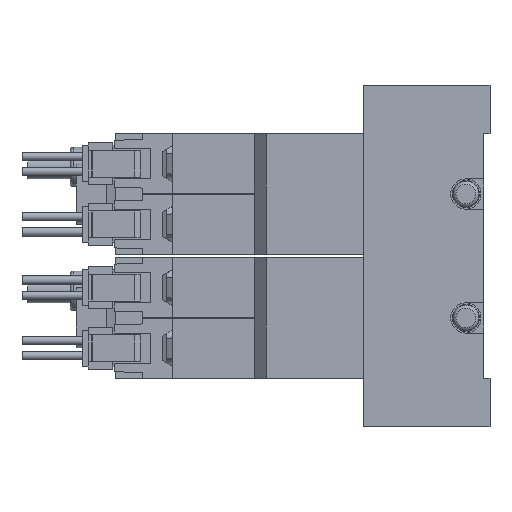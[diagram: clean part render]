
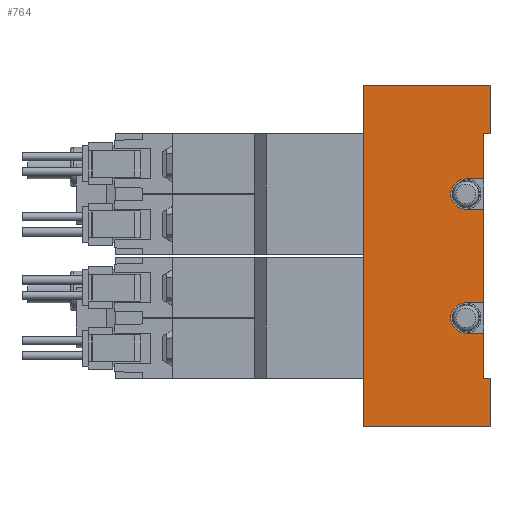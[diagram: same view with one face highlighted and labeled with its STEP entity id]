
A CAD part, left-side view. The second image highlights one B-rep face of the part: STEP entity #764.
In plain terms, the highlighted planar face has unit normal (-1, 0, 0) as drawn and (1, 0, 0) by its records, which use the part's own axes.
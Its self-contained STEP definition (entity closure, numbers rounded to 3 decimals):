
#764=ADVANCED_FACE('',(#1681),#1682,.F.);
#1681=FACE_OUTER_BOUND('',#2635,.T.);
#1682=PLANE('',#2636);
#2635=EDGE_LOOP('',(#5921,#5922,#5923,#5924,#5925,#5926,#5927,#5928,#5929,#5930,#5931,#5932,#5933,#5934,#5935,#5936));
#2636=AXIS2_PLACEMENT_3D('',#5937,#5938,#5939);
#5921=ORIENTED_EDGE('',*,*,#7086,.T.);
#5922=ORIENTED_EDGE('',*,*,#7133,.T.);
#5923=ORIENTED_EDGE('',*,*,#7116,.F.);
#5924=ORIENTED_EDGE('',*,*,#7071,.F.);
#5925=ORIENTED_EDGE('',*,*,#7134,.T.);
#5926=ORIENTED_EDGE('',*,*,#7135,.T.);
#5927=ORIENTED_EDGE('',*,*,#7136,.T.);
#5928=ORIENTED_EDGE('',*,*,#7137,.F.);
#5929=ORIENTED_EDGE('',*,*,#7063,.F.);
#5930=ORIENTED_EDGE('',*,*,#7130,.F.);
#5931=ORIENTED_EDGE('',*,*,#7138,.T.);
#5932=ORIENTED_EDGE('',*,*,#7139,.F.);
#5933=ORIENTED_EDGE('',*,*,#7120,.F.);
#5934=ORIENTED_EDGE('',*,*,#7140,.F.);
#5935=ORIENTED_EDGE('',*,*,#7141,.T.);
#5936=ORIENTED_EDGE('',*,*,#7142,.T.);
#5937=CARTESIAN_POINT('',(17.5,1.0,28.25));
#5938=DIRECTION('',(-1.0,0.0,0.0));
#5939=DIRECTION('',(0.0,0.0,1.0));
#7063=EDGE_CURVE('',#8778,#8780,#8781,.T.);
#7071=EDGE_CURVE('',#8794,#8796,#8797,.T.);
#7086=EDGE_CURVE('',#8824,#8825,#8826,.T.);
#7116=EDGE_CURVE('',#8796,#8878,#8880,.T.);
#7120=EDGE_CURVE('',#8885,#8887,#8888,.T.);
#7130=EDGE_CURVE('',#8904,#8778,#8905,.T.);
#7133=EDGE_CURVE('',#8825,#8878,#8908,.T.);
#7134=EDGE_CURVE('',#8794,#8909,#8910,.T.);
#7135=EDGE_CURVE('',#8909,#8911,#8912,.T.);
#7136=EDGE_CURVE('',#8911,#8913,#8914,.T.);
#7137=EDGE_CURVE('',#8780,#8913,#8915,.T.);
#7138=EDGE_CURVE('',#8904,#8916,#8917,.T.);
#7139=EDGE_CURVE('',#8887,#8916,#8918,.T.);
#7140=EDGE_CURVE('',#8919,#8885,#8920,.T.);
#7141=EDGE_CURVE('',#8919,#8921,#8922,.T.);
#7142=EDGE_CURVE('',#8921,#8824,#8923,.T.);
#8778=VERTEX_POINT('',#11598);
#8780=VERTEX_POINT('',#11601);
#8781=CIRCLE('',#11602,2.5);
#8794=VERTEX_POINT('',#11619);
#8796=VERTEX_POINT('',#11622);
#8797=LINE('',#11623,#11624);
#8824=VERTEX_POINT('',#11698);
#8825=VERTEX_POINT('',#11699);
#8826=LINE('',#11700,#11701);
#8878=VERTEX_POINT('',#11766);
#8880=LINE('',#11769,#11770);
#8885=VERTEX_POINT('',#11775);
#8887=VERTEX_POINT('',#11778);
#8888=CIRCLE('',#11779,2.5);
#8904=VERTEX_POINT('',#11800);
#8905=LINE('',#11801,#11802);
#8908=LINE('',#11807,#11808);
#8909=VERTEX_POINT('',#11809);
#8910=LINE('',#11810,#11811);
#8911=VERTEX_POINT('',#11812);
#8912=LINE('',#11813,#11814);
#8913=VERTEX_POINT('',#11815);
#8914=LINE('',#11816,#11817);
#8915=LINE('',#11818,#11819);
#8916=VERTEX_POINT('',#11820);
#8917=LINE('',#11821,#11822);
#8918=LINE('',#11823,#11824);
#8919=VERTEX_POINT('',#11825);
#8920=LINE('',#11826,#11827);
#8921=VERTEX_POINT('',#11828);
#8922=LINE('',#11829,#11830);
#8923=LINE('',#11831,#11832);
#11598=CARTESIAN_POINT('',(17.5,4.0,7.75));
#11601=CARTESIAN_POINT('',(17.5,4.0,12.75));
#11602=AXIS2_PLACEMENT_3D('',#13069,#13070,#13071);
#11619=CARTESIAN_POINT('',(17.5,0.0,28.25));
#11622=CARTESIAN_POINT('',(17.5,21.0,28.25));
#11623=CARTESIAN_POINT('',(17.5,1.0,28.25));
#11624=VECTOR('',#13083,1.0);
#11698=CARTESIAN_POINT('',(17.5,0.0,-20.25));
#11699=CARTESIAN_POINT('',(17.5,0.0,-28.25));
#11700=CARTESIAN_POINT('',(17.5,0.0,-20.25));
#11701=VECTOR('',#13117,1.0);
#11766=CARTESIAN_POINT('',(17.5,21.0,-28.25));
#11769=CARTESIAN_POINT('',(17.5,21.0,28.25));
#11770=VECTOR('',#13174,1.0);
#11775=CARTESIAN_POINT('',(17.5,4.0,-12.75));
#11778=CARTESIAN_POINT('',(17.5,4.0,-7.75));
#11779=AXIS2_PLACEMENT_3D('',#13182,#13183,#13184);
#11800=CARTESIAN_POINT('',(17.5,1.0,7.75));
#11801=CARTESIAN_POINT('',(17.5,1.0,7.75));
#11802=VECTOR('',#13202,1.0);
#11807=CARTESIAN_POINT('',(17.5,1.0,-28.25));
#11808=VECTOR('',#13205,1.0);
#11809=CARTESIAN_POINT('',(17.5,0.0,20.25));
#11810=CARTESIAN_POINT('',(17.5,0.0,28.25));
#11811=VECTOR('',#13206,1.0);
#11812=CARTESIAN_POINT('',(17.5,1.0,20.25));
#11813=CARTESIAN_POINT('',(17.5,0.0,20.25));
#11814=VECTOR('',#13207,1.0);
#11815=CARTESIAN_POINT('',(17.5,1.0,12.75));
#11816=CARTESIAN_POINT('',(17.5,1.0,28.25));
#11817=VECTOR('',#13208,1.0);
#11818=CARTESIAN_POINT('',(17.5,1.0,12.75));
#11819=VECTOR('',#13209,1.0);
#11820=CARTESIAN_POINT('',(17.5,1.0,-7.75));
#11821=CARTESIAN_POINT('',(17.5,1.0,28.25));
#11822=VECTOR('',#13210,1.0);
#11823=CARTESIAN_POINT('',(17.5,1.0,-7.75));
#11824=VECTOR('',#13211,1.0);
#11825=CARTESIAN_POINT('',(17.5,1.0,-12.75));
#11826=CARTESIAN_POINT('',(17.5,1.0,-12.75));
#11827=VECTOR('',#13212,1.0);
#11828=CARTESIAN_POINT('',(17.5,1.0,-20.25));
#11829=CARTESIAN_POINT('',(17.5,1.0,28.25));
#11830=VECTOR('',#13213,1.0);
#11831=CARTESIAN_POINT('',(17.5,4.0,-20.25));
#11832=VECTOR('',#13214,1.0);
#13069=CARTESIAN_POINT('',(17.5,4.0,10.25));
#13070=DIRECTION('',(1.0,0.0,-0.0));
#13071=DIRECTION('',(0.0,0.0,1.0));
#13083=DIRECTION('',(0.0,1.0,0.0));
#13117=DIRECTION('',(0.0,0.0,-1.0));
#13174=DIRECTION('',(0.0,0.0,-1.0));
#13182=CARTESIAN_POINT('',(17.5,4.0,-10.25));
#13183=DIRECTION('',(1.0,0.0,-0.0));
#13184=DIRECTION('',(0.0,0.0,1.0));
#13202=DIRECTION('',(0.0,1.0,0.0));
#13205=DIRECTION('',(0.0,1.0,0.0));
#13206=DIRECTION('',(0.0,0.0,-1.0));
#13207=DIRECTION('',(0.0,1.0,0.0));
#13208=DIRECTION('',(0.0,0.0,-1.0));
#13209=DIRECTION('',(0.0,-1.0,0.0));
#13210=DIRECTION('',(0.0,0.0,-1.0));
#13211=DIRECTION('',(0.0,-1.0,0.0));
#13212=DIRECTION('',(0.0,1.0,0.0));
#13213=DIRECTION('',(0.0,0.0,-1.0));
#13214=DIRECTION('',(0.0,-1.0,0.0));
